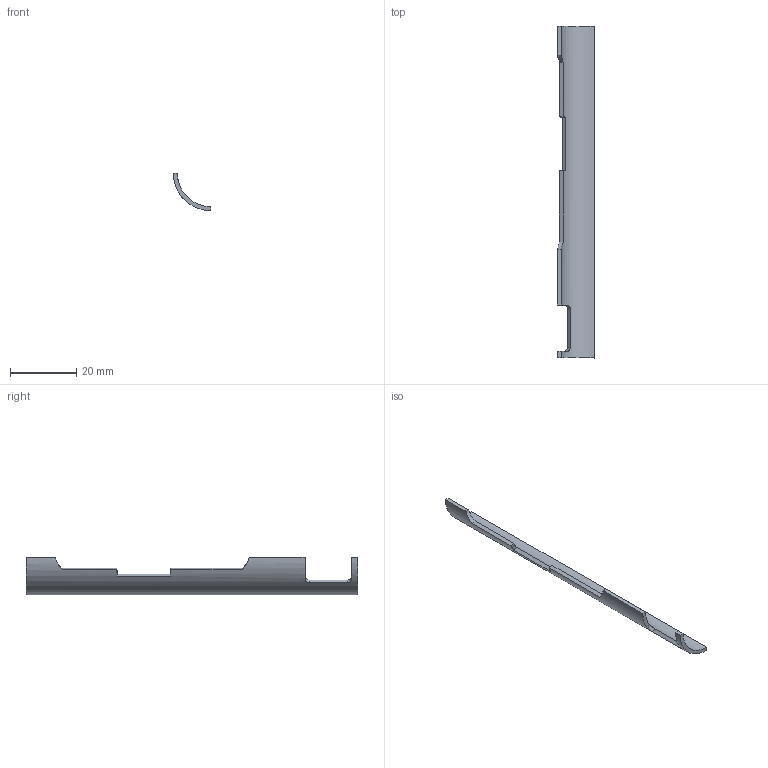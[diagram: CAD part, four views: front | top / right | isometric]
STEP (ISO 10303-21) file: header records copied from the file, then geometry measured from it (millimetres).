
FILE_DESCRIPTION(('Open CASCADE Model'),'2;1');
FILE_NAME('Open CASCADE Shape Model','2026-09-15T13:33:25',('Author'),( 'Open CASCADE'),'Open CASCADE STEP processor 7.7','Open CASCADE 7.7' ,'Unknown');
FILE_SCHEMA(('AUTOMOTIVE_DESIGN { 1 0 10303 214 1 1 1 1 }'));
Length unit declared in the file: millimetre
Products named in the file (1): Open CASCADE STEP translator 7.7 2
Bounding box: 11.2 x 100 x 11.2 mm (x, y, z)
Volume: 1585.2 mm3; surface area: 2949.5 mm2
Topology: 1 solids, 1 shells, 26 faces, 72 edges, 48 vertices
Faces by surface type: plane 19, bspline 5, cylinder 2
Entity records: 2683 total; most frequent: CARTESIAN_POINT 1345, DIRECTION 218, ORIENTED_EDGE 144, PCURVE 144, DEFINITIONAL_REPRESENTATION 144, LINE 138, VECTOR 138, EDGE_CURVE 72
